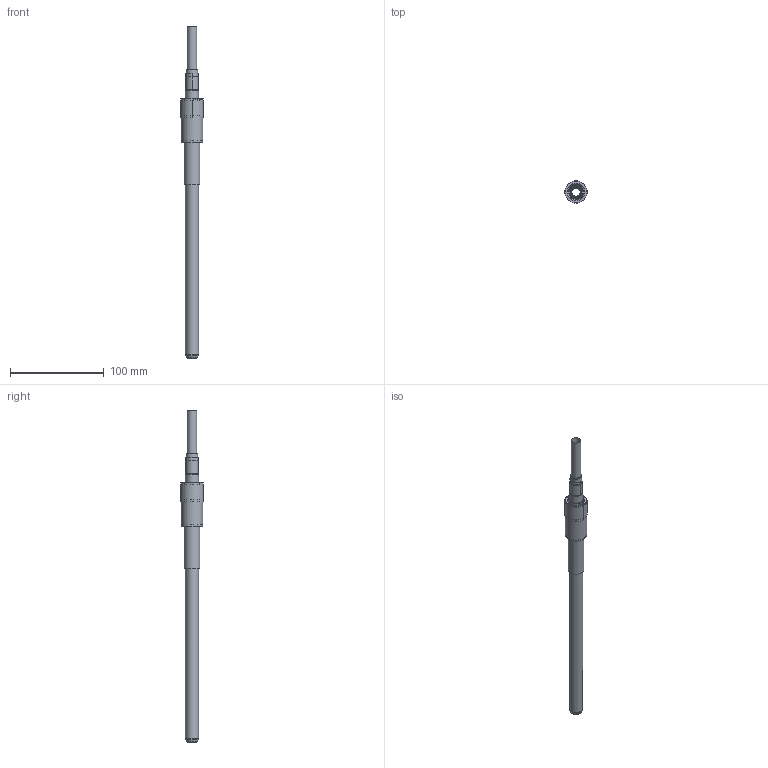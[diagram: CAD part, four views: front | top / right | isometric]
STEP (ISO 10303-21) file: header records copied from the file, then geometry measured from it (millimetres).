
FILE_DESCRIPTION(('STEP AP214'),'1');
FILE_NAME('LC-14300.stp','2025-10-28T13:32:55',(' '),(' '),'Spatial InterOp 3D',' ',' ');
FILE_SCHEMA(('AUTOMOTIVE_DESIGN { 1 0 10303 214 1 1 1 1 }'));
Length unit declared in the file: metre
Products named in the file (6): LC-14SU; LC-14SU-SEDE; LC-14P300; LC-14P300-SEDI
Bounding box: 24 x 24 x 353.75 mm (x, y, z)
Volume: 37948.8 mm3; surface area: 38106.7 mm2
Topology: 2 solids, 6 shells, 51 faces, 117 edges, 81 vertices
Faces by surface type: plane 23, cylinder 15, cone 10, torus 3
Full cylindrical faces by diameter (mm): 9 x1, 10 x1, 12.01 x1, 13.15 x1, 14 x2, 14.5 x1, 17 x1, 18.5 x1, 18.8 x1, 22.9 x1, 23 x1, 24 x1
Entity records: 2118 total; most frequent: CARTESIAN_POINT 283, DIRECTION 230, ORIENTED_EDGE 140, STYLED_ITEM 114, PRESENTATION_STYLE_ASSIGNMENT 114, COLOUR_RGB 114, AXIS2_PLACEMENT_3D 103, EDGE_LOOP 90
